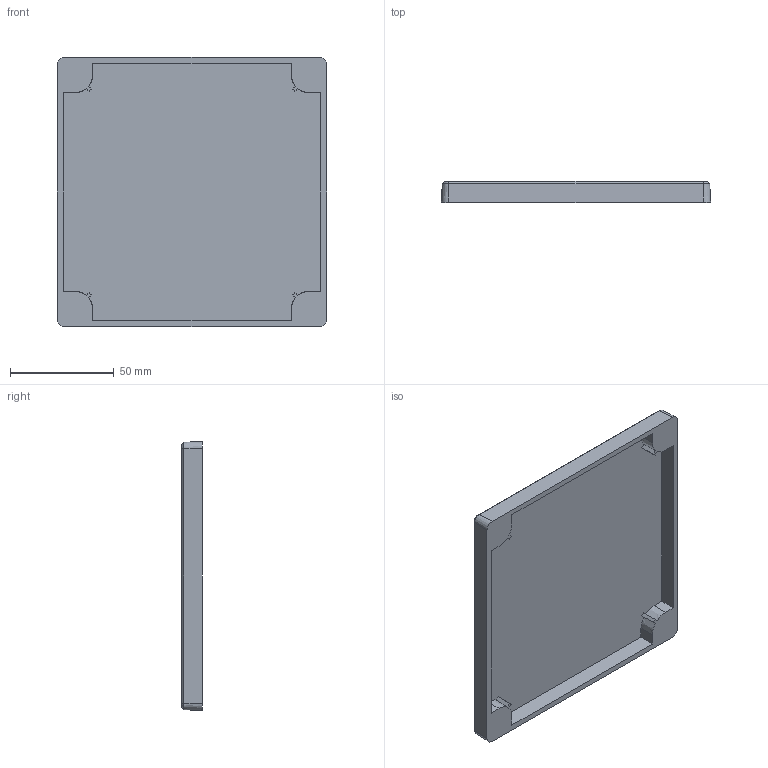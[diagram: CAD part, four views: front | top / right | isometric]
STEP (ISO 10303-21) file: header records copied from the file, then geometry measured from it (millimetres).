
FILE_DESCRIPTION (( 'STEP AP203' ), '1' );
FILE_NAME ('FIBOX_MNX12510C.STEP', '2005-06-30T06:52:26', ( ' ' ), ( ' ' ), 'SwSTEP 2.0', 'SolidWorks 2005143', '' );
FILE_SCHEMA (( 'CONFIG_CONTROL_DESIGN' ));
Length unit declared in the file: millimetre
Products named in the file (1): FIBOX_MNX12510C
Bounding box: 130 x 10 x 130 mm (x, y, z)
Volume: 46353.2 mm3; surface area: 43335.6 mm2
Topology: 1 solids, 1 shells, 72 faces, 184 edges, 120 vertices
Faces by surface type: plane 40, cone 20, cylinder 12
Entity records: 2277 total; most frequent: CARTESIAN_POINT 425, DIRECTION 374, ORIENTED_EDGE 368, EDGE_CURVE 184, AXIS2_PLACEMENT_3D 133, VERTEX_POINT 120, LINE 108, VECTOR 108
